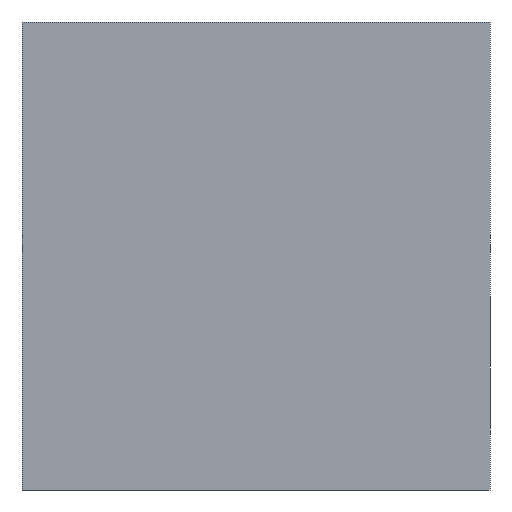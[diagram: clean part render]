
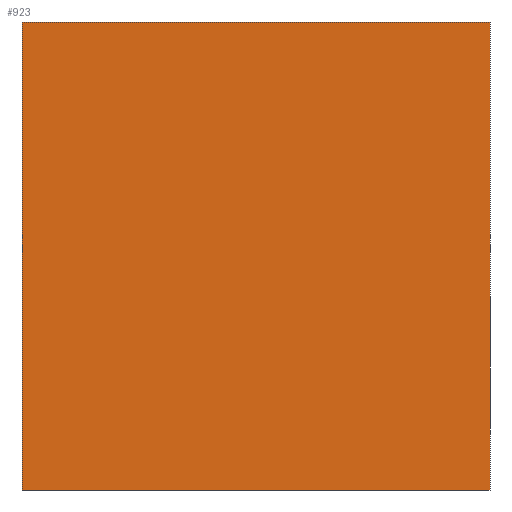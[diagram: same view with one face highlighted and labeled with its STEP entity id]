
A CAD part, front view. The second image highlights one B-rep face of the part: STEP entity #923.
In plain terms, the highlighted planar face has unit normal (0, -1, 0).
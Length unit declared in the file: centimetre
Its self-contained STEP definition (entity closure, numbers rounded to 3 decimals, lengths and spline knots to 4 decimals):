
#11 = DIRECTION ( 'NONE',  ( 0., 0., 1. ) ) ;
#61 = VERTEX_POINT ( 'NONE', #919 ) ;
#83 = ORIENTED_EDGE ( 'NONE', *, *, #352, .T. ) ;
#86 = CARTESIAN_POINT ( 'NONE',  ( 0., 0., 0. ) ) ;
#145 = DIRECTION ( 'NONE',  ( 0., 0., -1. ) ) ;
#148 = VECTOR ( 'NONE', #564, 100. ) ;
#157 = LINE ( 'NONE', #709, #302 ) ;
#180 = CARTESIAN_POINT ( 'NONE',  ( 1000., 0., 0. ) ) ;
#244 = DIRECTION ( 'NONE',  ( 1., 0., 0. ) ) ;
#258 = ORIENTED_EDGE ( 'NONE', *, *, #879, .F. ) ;
#296 = VERTEX_POINT ( 'NONE', #596 ) ;
#302 = VECTOR ( 'NONE', #244, 100. ) ;
#306 = CARTESIAN_POINT ( 'NONE',  ( 0., 0., 1000. ) ) ;
#352 = EDGE_CURVE ( 'NONE', #811, #296, #638, .T. ) ;
#405 = FACE_OUTER_BOUND ( 'NONE', #493, .T. ) ;
#446 = VECTOR ( 'NONE', #145, 100. ) ;
#451 = AXIS2_PLACEMENT_3D ( 'NONE', #306, #636, #11 ) ;
#472 = DIRECTION ( 'NONE',  ( 0., 0., -1. ) ) ;
#473 = ORIENTED_EDGE ( 'NONE', *, *, #905, .T. ) ;
#493 = EDGE_LOOP ( 'NONE', ( #473, #258, #766, #83 ) ) ;
#552 = VERTEX_POINT ( 'NONE', #180 ) ;
#564 = DIRECTION ( 'NONE',  ( 1., 0., 0. ) ) ;
#596 = CARTESIAN_POINT ( 'NONE',  ( 0., 0., 0. ) ) ;
#629 = CARTESIAN_POINT ( 'NONE',  ( 0., 0., 1000. ) ) ;
#636 = DIRECTION ( 'NONE',  ( 0., 1., 0. ) ) ;
#638 = LINE ( 'NONE', #629, #446 ) ;
#639 = LINE ( 'NONE', #86, #148 ) ;
#709 = CARTESIAN_POINT ( 'NONE',  ( 0., 0., 1000. ) ) ;
#766 = ORIENTED_EDGE ( 'NONE', *, *, #955, .F. ) ;
#811 = VERTEX_POINT ( 'NONE', #930 ) ;
#873 = CARTESIAN_POINT ( 'NONE',  ( 1000., 0., 1000. ) ) ;
#879 = EDGE_CURVE ( 'NONE', #61, #552, #1014, .T. ) ;
#905 = EDGE_CURVE ( 'NONE', #296, #552, #639, .T. ) ;
#919 = CARTESIAN_POINT ( 'NONE',  ( 1000., 0., 1000. ) ) ;
#923 = ADVANCED_FACE ( 'NONE', ( #405 ), #937, .F. ) ;
#930 = CARTESIAN_POINT ( 'NONE',  ( 0., 0., 1000. ) ) ;
#937 = PLANE ( 'NONE',  #451 ) ;
#955 = EDGE_CURVE ( 'NONE', #811, #61, #157, .T. ) ;
#965 = VECTOR ( 'NONE', #472, 100. ) ;
#1014 = LINE ( 'NONE', #873, #965 ) ;
